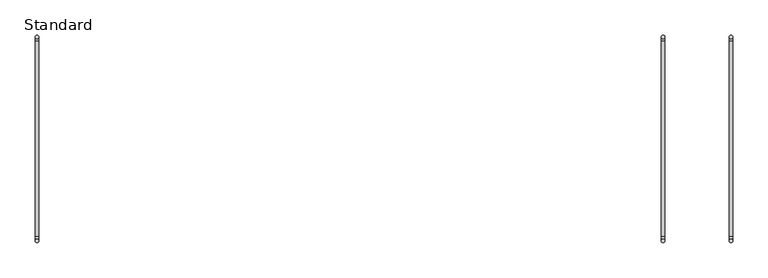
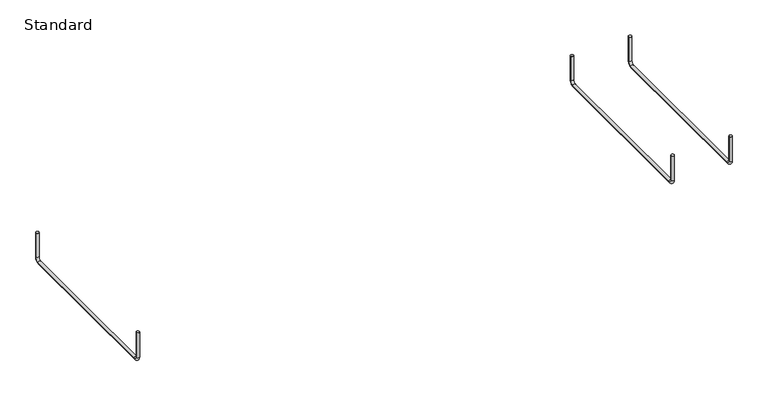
"""IFC4 building model written with IfcOpenShell, lengths in millimetres: cable carrier fitting geometry, CableTray_Atkore-Straight-Length : Standard."""

from ifc_helpers import new_model, si_unit, point, frame, origin, place, context, project, spatial, circle_curve, ellipse_curve, trimmed, source, transform, mapped, element, save
from ifc_brep_helpers import plane_surface, cylinder_surface, revolved_surface, advanced_brep


def standard_4633cee2(model_context):
    return source(origin(), model_context, "Body", "AdvancedBrep", [
        advanced_brep(
        [(890.0476, -144.88, 28.4757813), (895.1276, -144.88, 28.4757813), (890.0476, -144.88, -14.8133594), (895.1276, -144.88, -14.8133594), (895.1276, -138.8375781, -20.8557812), (890.0476, -138.8375781, -20.8557812), (890.0476, 138.53, -20.8557812), (895.1276, 138.53, -20.8557812), (895.1276, 144.88, -14.5057812), (890.0476, 144.88, -14.5057812), (890.0476, 144.88, 28.4757813), (895.1276, 144.88, 28.4757813)],
        [
            (0, 1, circle_curve(frame((892.5876, -144.88, 28.4757813), z_axis=(0.0, 0.0, 1.0), x_axis=(1.0, 0.0, 0.0)), 2.54)),
            (1, 0, circle_curve(frame((892.5876, -144.88, 28.4757813), z_axis=(0.0, 0.0, 1.0), x_axis=(1.0, 0.0, 0.0)), 2.54)),
            (0, 2),
            (2, 3, circle_curve(frame((892.5876, -144.88, -14.8133594), z_axis=(0.0, 0.0, 1.0), x_axis=(1.0, 0.0, 0.0)), 2.54)),
            (3, 1),
            (3, 2, circle_curve(frame((892.5876, -144.88, -14.8133594), z_axis=(0.0, 0.0, 1.0), x_axis=(1.0, 0.0, 0.0)), 2.54)),
            (4, 3, circle_curve(frame((895.1276, -138.8375781, -14.8133594), z_axis=(-1.0, 0.0, 0.0), x_axis=(0.0, -1.0, 0.0)), 6.0424219)),
            (2, 5, circle_curve(frame((890.0476, -138.8375781, -14.8133594), z_axis=(1.0, 0.0, 0.0), x_axis=(0.0, -1.0, 0.0)), 6.0424219)),
            (5, 4, circle_curve(frame((892.5876, -138.8375781, -20.8557812), z_axis=(0.0, -1.0, 0.0), x_axis=(1.0, 0.0, 0.0)), 2.54)),
            (4, 5, circle_curve(frame((892.5876, -138.8375781, -20.8557812), z_axis=(0.0, -1.0, 0.0), x_axis=(1.0, 0.0, 0.0)), 2.54)),
            (5, 6),
            (6, 7, circle_curve(frame((892.5876, 138.53, -20.8557812), z_axis=(0.0, -1.0, 0.0), x_axis=(1.0, 0.0, 0.0)), 2.54)),
            (7, 4),
            (7, 6, circle_curve(frame((892.5876, 138.53, -20.8557812), z_axis=(0.0, -1.0, 0.0), x_axis=(1.0, 0.0, 0.0)), 2.54)),
            (8, 7, circle_curve(frame((895.1276, 138.53, -14.5057812), z_axis=(-1.0, 0.0, 0.0), x_axis=(0.0, 0.0, -1.0)), 6.35)),
            (6, 9, circle_curve(frame((890.0476, 138.53, -14.5057812), z_axis=(1.0, 0.0, 0.0), x_axis=(0.0, 0.0, -1.0)), 6.35)),
            (9, 8, circle_curve(frame((892.5876, 144.88, -14.5057812), z_axis=(0.0, 0.0, -1.0), x_axis=(1.0, 0.0, 0.0)), 2.54)),
            (8, 9, circle_curve(frame((892.5876, 144.88, -14.5057812), z_axis=(0.0, 0.0, -1.0), x_axis=(1.0, 0.0, 0.0)), 2.54)),
            (10, 11, circle_curve(frame((892.5876, 144.88, 28.4757813), z_axis=(0.0, 0.0, 1.0), x_axis=(1.0, 0.0, 0.0)), 2.54)),
            (11, 10, circle_curve(frame((892.5876, 144.88, 28.4757813), z_axis=(0.0, 0.0, 1.0), x_axis=(1.0, 0.0, 0.0)), 2.54)),
            (9, 10),
            (11, 8),
        ],
        [
            plane_surface(frame((892.5876, -144.88, 28.4757813), z_axis=(0.0, 0.0, 1.0), x_axis=(1.0, 0.0, 0.0))),
            cylinder_surface(frame((892.5876, -144.88, 28.4757813), z_axis=(0.0, 0.0, 1.0), x_axis=(1.0, 0.0, 0.0)), 2.54),
            revolved_surface(trimmed(ellipse_curve(frame((892.5876, -144.88, -14.8133594), z_axis=(0.0, 0.0, 1.0), x_axis=(1.0, 0.0, 0.0)), 2.54, 2.54), [point((890.0476, -144.88, -14.8133594))], [point((895.1276, -144.88, -14.8133594))], True, "CARTESIAN"), (892.5876, -138.8375781, -14.8133594), (1.0, 0.0, 0.0)),
            revolved_surface(trimmed(ellipse_curve(frame((892.5876, -144.88, -14.8133594), z_axis=(0.0, 0.0, 1.0), x_axis=(1.0, 0.0, 0.0)), 2.54, 2.54), [point((895.1276, -144.88, -14.8133594))], [point((890.0476, -144.88, -14.8133594))], True, "CARTESIAN"), (892.5876, -138.8375781, -14.8133594), (1.0, 0.0, 0.0)),
            cylinder_surface(frame((892.5876, -138.8375781, -20.8557812), z_axis=(0.0, -1.0, 0.0), x_axis=(1.0, 0.0, 0.0)), 2.54),
            revolved_surface(trimmed(ellipse_curve(frame((892.5876, 138.53, -20.8557812), z_axis=(0.0, -1.0, 0.0), x_axis=(1.0, 0.0, 0.0)), 2.54, 2.54), [point((890.0476, 138.53, -20.8557812))], [point((895.1276, 138.53, -20.8557812))], True, "CARTESIAN"), (892.5876, 138.53, -14.5057812), (1.0, 0.0, 0.0)),
            revolved_surface(trimmed(ellipse_curve(frame((892.5876, 138.53, -20.8557812), z_axis=(0.0, -1.0, 0.0), x_axis=(1.0, 0.0, 0.0)), 2.54, 2.54), [point((895.1276, 138.53, -20.8557812))], [point((890.0476, 138.53, -20.8557812))], True, "CARTESIAN"), (892.5876, 138.53, -14.5057812), (1.0, 0.0, 0.0)),
            plane_surface(frame((892.5876, 144.88, 28.4757813), z_axis=(0.0, 0.0, 1.0), x_axis=(1.0, 0.0, 0.0))),
            cylinder_surface(frame((892.5876, 144.88, -14.5057812), z_axis=(0.0, 0.0, -1.0), x_axis=(1.0, 0.0, 0.0)), 2.54),
        ],
        [
            (0, [[1, 2]]),
            (1, [[-1, 3, 4, 5]]),
            (1, [[-2, -5, 6, -3]]),
            (2, [[7, -4, 8, 9]]),
            (3, [[-8, -6, -7, 10]]),
            (4, [[-9, 11, 12, 13]]),
            (4, [[-10, -13, 14, -11]]),
            (5, [[15, -12, 16, 17]]),
            (6, [[-16, -14, -15, 18]]),
            (7, [[19, 20]]),
            (8, [[-17, 21, -20, 22]]),
            (8, [[-18, -22, -19, -21]]),
        ],
    ),
        advanced_brep(
        [(0.0, -144.88, 28.4757813), (5.08, -144.88, 28.4757813), (0.0, -144.88, -14.8133594), (5.08, -144.88, -14.8133594), (5.08, -138.8375781, -20.8557812), (0.0, -138.8375781, -20.8557812), (0.0, 138.53, -20.8557812), (5.08, 138.53, -20.8557812), (5.08, 144.88, -14.5057812), (0.0, 144.88, -14.5057812), (0.0, 144.88, 28.4757813), (5.08, 144.88, 28.4757813)],
        [
            (0, 1, circle_curve(frame((2.54, -144.88, 28.4757813), z_axis=(0.0, 0.0, 1.0), x_axis=(1.0, 0.0, 0.0)), 2.54)),
            (1, 0, circle_curve(frame((2.54, -144.88, 28.4757813), z_axis=(0.0, 0.0, 1.0), x_axis=(1.0, 0.0, 0.0)), 2.54)),
            (0, 2),
            (2, 3, circle_curve(frame((2.54, -144.88, -14.8133594), z_axis=(0.0, 0.0, 1.0), x_axis=(1.0, 0.0, 0.0)), 2.54)),
            (3, 1),
            (3, 2, circle_curve(frame((2.54, -144.88, -14.8133594), z_axis=(0.0, 0.0, 1.0), x_axis=(1.0, 0.0, 0.0)), 2.54)),
            (4, 3, circle_curve(frame((5.08, -138.8375781, -14.8133594), z_axis=(-1.0, 0.0, 0.0), x_axis=(0.0, -1.0, 0.0)), 6.0424219)),
            (2, 5, circle_curve(frame((0.0, -138.8375781, -14.8133594), z_axis=(1.0, 0.0, 0.0), x_axis=(0.0, -1.0, 0.0)), 6.0424219)),
            (5, 4, circle_curve(frame((2.54, -138.8375781, -20.8557812), z_axis=(0.0, -1.0, 0.0), x_axis=(1.0, 0.0, 0.0)), 2.54)),
            (4, 5, circle_curve(frame((2.54, -138.8375781, -20.8557812), z_axis=(0.0, -1.0, 0.0), x_axis=(1.0, 0.0, 0.0)), 2.54)),
            (5, 6),
            (6, 7, circle_curve(frame((2.54, 138.53, -20.8557812), z_axis=(0.0, -1.0, 0.0), x_axis=(1.0, 0.0, 0.0)), 2.54)),
            (7, 4),
            (7, 6, circle_curve(frame((2.54, 138.53, -20.8557812), z_axis=(0.0, -1.0, 0.0), x_axis=(1.0, 0.0, 0.0)), 2.54)),
            (8, 7, circle_curve(frame((5.08, 138.53, -14.5057812), z_axis=(-1.0, 0.0, 0.0), x_axis=(0.0, 0.0, -1.0)), 6.35)),
            (6, 9, circle_curve(frame((0.0, 138.53, -14.5057812), z_axis=(1.0, 0.0, 0.0), x_axis=(0.0, 0.0, -1.0)), 6.35)),
            (9, 8, circle_curve(frame((2.54, 144.88, -14.5057812), z_axis=(0.0, 0.0, -1.0), x_axis=(1.0, 0.0, 0.0)), 2.54)),
            (8, 9, circle_curve(frame((2.54, 144.88, -14.5057812), z_axis=(0.0, 0.0, -1.0), x_axis=(1.0, 0.0, 0.0)), 2.54)),
            (10, 11, circle_curve(frame((2.54, 144.88, 28.4757813), z_axis=(0.0, 0.0, 1.0), x_axis=(1.0, 0.0, 0.0)), 2.54)),
            (11, 10, circle_curve(frame((2.54, 144.88, 28.4757813), z_axis=(0.0, 0.0, 1.0), x_axis=(1.0, 0.0, 0.0)), 2.54)),
            (9, 10),
            (11, 8),
        ],
        [
            plane_surface(frame((2.54, -144.88, 28.4757813), z_axis=(0.0, 0.0, 1.0), x_axis=(1.0, 0.0, 0.0))),
            cylinder_surface(frame((2.54, -144.88, 28.4757813), z_axis=(0.0, 0.0, 1.0), x_axis=(1.0, 0.0, 0.0)), 2.54),
            revolved_surface(trimmed(ellipse_curve(frame((2.54, -144.88, -14.8133594), z_axis=(0.0, 0.0, 1.0), x_axis=(1.0, 0.0, 0.0)), 2.54, 2.54), [point((0.0, -144.88, -14.8133594))], [point((5.08, -144.88, -14.8133594))], True, "CARTESIAN"), (2.54, -138.8375781, -14.8133594), (1.0, 0.0, 0.0)),
            revolved_surface(trimmed(ellipse_curve(frame((2.54, -144.88, -14.8133594), z_axis=(0.0, 0.0, 1.0), x_axis=(1.0, 0.0, 0.0)), 2.54, 2.54), [point((5.08, -144.88, -14.8133594))], [point((0.0, -144.88, -14.8133594))], True, "CARTESIAN"), (2.54, -138.8375781, -14.8133594), (1.0, 0.0, 0.0)),
            cylinder_surface(frame((2.54, -138.8375781, -20.8557812), z_axis=(0.0, -1.0, 0.0), x_axis=(1.0, 0.0, 0.0)), 2.54),
            revolved_surface(trimmed(ellipse_curve(frame((2.54, 138.53, -20.8557812), z_axis=(0.0, -1.0, 0.0), x_axis=(1.0, 0.0, 0.0)), 2.54, 2.54), [point((0.0, 138.53, -20.8557812))], [point((5.08, 138.53, -20.8557812))], True, "CARTESIAN"), (2.54, 138.53, -14.5057812), (1.0, 0.0, 0.0)),
            revolved_surface(trimmed(ellipse_curve(frame((2.54, 138.53, -20.8557812), z_axis=(0.0, -1.0, 0.0), x_axis=(1.0, 0.0, 0.0)), 2.54, 2.54), [point((5.08, 138.53, -20.8557812))], [point((0.0, 138.53, -20.8557812))], True, "CARTESIAN"), (2.54, 138.53, -14.5057812), (1.0, 0.0, 0.0)),
            plane_surface(frame((2.54, 144.88, 28.4757813), z_axis=(0.0, 0.0, 1.0), x_axis=(1.0, 0.0, 0.0))),
            cylinder_surface(frame((2.54, 144.88, -14.5057812), z_axis=(0.0, 0.0, -1.0), x_axis=(1.0, 0.0, 0.0)), 2.54),
        ],
        [
            (0, [[1, 2]]),
            (1, [[-1, 3, 4, 5]]),
            (1, [[-2, -5, 6, -3]]),
            (2, [[7, -4, 8, 9]]),
            (3, [[-8, -6, -7, 10]]),
            (4, [[-9, 11, 12, 13]]),
            (4, [[-10, -13, 14, -11]]),
            (5, [[15, -12, 16, 17]]),
            (6, [[-16, -14, -15, 18]]),
            (7, [[19, 20]]),
            (8, [[-17, 21, -20, 22]]),
            (8, [[-18, -22, -19, -21]]),
        ],
    ),
        advanced_brep(
        [(986.684, -144.88, 28.4757813), (991.764, -144.88, 28.4757813), (986.684, -144.88, -14.8133594), (991.764, -144.88, -14.8133594), (991.764, -138.8375781, -20.8557812), (986.684, -138.8375781, -20.8557812), (986.684, 138.53, -20.8557812), (991.764, 138.53, -20.8557812), (991.764, 144.88, -14.5057812), (986.684, 144.88, -14.5057812), (986.684, 144.88, 28.4757813), (991.764, 144.88, 28.4757813)],
        [
            (0, 1, circle_curve(frame((989.224, -144.88, 28.4757813), z_axis=(0.0, 0.0, 1.0), x_axis=(1.0, 0.0, 0.0)), 2.54)),
            (1, 0, circle_curve(frame((989.224, -144.88, 28.4757813), z_axis=(0.0, 0.0, 1.0), x_axis=(1.0, 0.0, 0.0)), 2.54)),
            (0, 2),
            (2, 3, circle_curve(frame((989.224, -144.88, -14.8133594), z_axis=(0.0, 0.0, 1.0), x_axis=(1.0, 0.0, 0.0)), 2.54)),
            (3, 1),
            (3, 2, circle_curve(frame((989.224, -144.88, -14.8133594), z_axis=(0.0, 0.0, 1.0), x_axis=(1.0, 0.0, 0.0)), 2.54)),
            (4, 3, circle_curve(frame((991.764, -138.8375781, -14.8133594), z_axis=(-1.0, 0.0, 0.0), x_axis=(0.0, -1.0, 0.0)), 6.0424219)),
            (2, 5, circle_curve(frame((986.684, -138.8375781, -14.8133594), z_axis=(1.0, 0.0, 0.0), x_axis=(0.0, -1.0, 0.0)), 6.0424219)),
            (5, 4, circle_curve(frame((989.224, -138.8375781, -20.8557812), z_axis=(0.0, -1.0, 0.0), x_axis=(1.0, 0.0, 0.0)), 2.54)),
            (4, 5, circle_curve(frame((989.224, -138.8375781, -20.8557812), z_axis=(0.0, -1.0, 0.0), x_axis=(1.0, 0.0, 0.0)), 2.54)),
            (5, 6),
            (6, 7, circle_curve(frame((989.224, 138.53, -20.8557812), z_axis=(0.0, -1.0, 0.0), x_axis=(1.0, 0.0, 0.0)), 2.54)),
            (7, 4),
            (7, 6, circle_curve(frame((989.224, 138.53, -20.8557812), z_axis=(0.0, -1.0, 0.0), x_axis=(1.0, 0.0, 0.0)), 2.54)),
            (8, 7, circle_curve(frame((991.764, 138.53, -14.5057812), z_axis=(-1.0, 0.0, 0.0), x_axis=(0.0, 0.0, -1.0)), 6.35)),
            (6, 9, circle_curve(frame((986.684, 138.53, -14.5057812), z_axis=(1.0, 0.0, 0.0), x_axis=(0.0, 0.0, -1.0)), 6.35)),
            (9, 8, circle_curve(frame((989.224, 144.88, -14.5057812), z_axis=(0.0, 0.0, -1.0), x_axis=(1.0, 0.0, 0.0)), 2.54)),
            (8, 9, circle_curve(frame((989.224, 144.88, -14.5057812), z_axis=(0.0, 0.0, -1.0), x_axis=(1.0, 0.0, 0.0)), 2.54)),
            (10, 11, circle_curve(frame((989.224, 144.88, 28.4757813), z_axis=(0.0, 0.0, 1.0), x_axis=(1.0, 0.0, 0.0)), 2.54)),
            (11, 10, circle_curve(frame((989.224, 144.88, 28.4757813), z_axis=(0.0, 0.0, 1.0), x_axis=(1.0, 0.0, 0.0)), 2.54)),
            (9, 10),
            (11, 8),
        ],
        [
            plane_surface(frame((989.224, -144.88, 28.4757813), z_axis=(0.0, 0.0, 1.0), x_axis=(1.0, 0.0, 0.0))),
            cylinder_surface(frame((989.224, -144.88, 28.4757813), z_axis=(0.0, 0.0, 1.0), x_axis=(1.0, 0.0, 0.0)), 2.54),
            revolved_surface(trimmed(ellipse_curve(frame((989.224, -144.88, -14.8133594), z_axis=(0.0, 0.0, 1.0), x_axis=(1.0, 0.0, 0.0)), 2.54, 2.54), [point((986.684, -144.88, -14.8133594))], [point((991.764, -144.88, -14.8133594))], True, "CARTESIAN"), (989.224, -138.8375781, -14.8133594), (1.0, 0.0, 0.0)),
            revolved_surface(trimmed(ellipse_curve(frame((989.224, -144.88, -14.8133594), z_axis=(0.0, 0.0, 1.0), x_axis=(1.0, 0.0, 0.0)), 2.54, 2.54), [point((991.764, -144.88, -14.8133594))], [point((986.684, -144.88, -14.8133594))], True, "CARTESIAN"), (989.224, -138.8375781, -14.8133594), (1.0, 0.0, 0.0)),
            cylinder_surface(frame((989.224, -138.8375781, -20.8557812), z_axis=(0.0, -1.0, 0.0), x_axis=(1.0, 0.0, 0.0)), 2.54),
            revolved_surface(trimmed(ellipse_curve(frame((989.224, 138.53, -20.8557812), z_axis=(0.0, -1.0, 0.0), x_axis=(1.0, 0.0, 0.0)), 2.54, 2.54), [point((986.684, 138.53, -20.8557812))], [point((991.764, 138.53, -20.8557812))], True, "CARTESIAN"), (989.224, 138.53, -14.5057812), (1.0, 0.0, 0.0)),
            revolved_surface(trimmed(ellipse_curve(frame((989.224, 138.53, -20.8557812), z_axis=(0.0, -1.0, 0.0), x_axis=(1.0, 0.0, 0.0)), 2.54, 2.54), [point((991.764, 138.53, -20.8557812))], [point((986.684, 138.53, -20.8557812))], True, "CARTESIAN"), (989.224, 138.53, -14.5057812), (1.0, 0.0, 0.0)),
            plane_surface(frame((989.224, 144.88, 28.4757813), z_axis=(0.0, 0.0, 1.0), x_axis=(1.0, 0.0, 0.0))),
            cylinder_surface(frame((989.224, 144.88, -14.5057812), z_axis=(0.0, 0.0, -1.0), x_axis=(1.0, 0.0, 0.0)), 2.54),
        ],
        [
            (0, [[1, 2]]),
            (1, [[-1, 3, 4, 5]]),
            (1, [[-2, -5, 6, -3]]),
            (2, [[7, -4, 8, 9]]),
            (3, [[-8, -6, -7, 10]]),
            (4, [[-9, 11, 12, 13]]),
            (4, [[-10, -13, 14, -11]]),
            (5, [[15, -12, 16, 17]]),
            (6, [[-16, -14, -15, 18]]),
            (7, [[19, 20]]),
            (8, [[-17, 21, -20, 22]]),
            (8, [[-18, -22, -19, -21]]),
        ],
    ),
    ])


if __name__ == "__main__":
    model = new_model("IFC4")
    model_context = context("Model", 3, world=origin())
    ifc_project = project(units=[si_unit("LENGTHUNIT", "METRE", prefix="MILLI")], contexts=[model_context])
    site = spatial("IfcSite", under=ifc_project)
    building = spatial("IfcBuilding", under=site)
    placement = place(None, origin())
    standard_shape = standard_4633cee2(model_context)
    element("IfcCableCarrierFitting", 1, ObjectType="CableTray_Atkore-Straight-Length : Standard", at=placement, inside=building, context=model_context, shape_type="MappedRepresentation", body=[
        mapped(standard_shape, transform((0.0, 0.0, 0.0), x_axis=(1.0, 0.0, 0.0), y_axis=(0.0, 1.0, 0.0), z_axis=(0.0, 0.0, 1.0))),
    ])
    save(model, "model.ifc")
